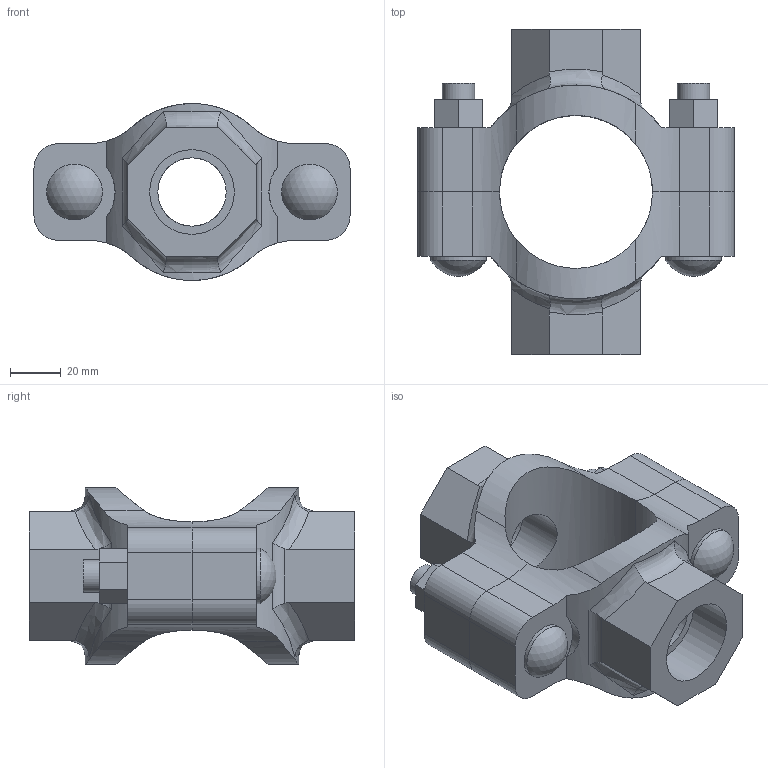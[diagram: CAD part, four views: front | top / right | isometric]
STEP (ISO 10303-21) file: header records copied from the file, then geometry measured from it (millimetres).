
FILE_DESCRIPTION(/* description */ ('VIC MECH-T BRANCH OUTLET CROSS STYLE 920N (THD)','CAx-IF Rec.Pracs.---Representation and Presentation of Product Manufacturing Information (PMI)---4.0---2014-10-13'),/* implementation_level */ '2;1');
FILE_NAME(/* name */ 'C:\Users\Vjadhav\AppData\Roaming\Autodesk\ApplicationPlugins\Back Up\Victaulic_IPS_Mechanical-Cross Outlet_Style 920N (FPT)\Victaulic_IPS_Mechanical-Cross Outlet_02.0x01.0x01.0 (50x25x25).stp',/* time_stamp */ '2020-08-06T18:56:05+05:00',/* author */ ('Vjadhav'),/* organization */ ('Victaulic'),/* preprocessor_version */ 'ST-DEVELOPER v17.2',/* originating_system */ 'Autodesk Inventor 2019',/* authorisation */ '');
FILE_SCHEMA (('AP242_MANAGED_MODEL_BASED_3D_ENGINEERING_MIM_LF { 1 0 10303 442 1 1 4 }'));
Length unit declared in the file: inch
Products named in the file (3): 920NT-02.0x01.0x01.0; 920NT-02.0x01.0; 920NT-02.0x01.0_1
Assembly tree (2 placements, depth 2):
  920NT-02.0x01.0x01.0
    920NT-02.0x01.0
    920NT-02.0x01.0_1
Bounding box: 124.71 x 128.52 x 69.83 mm (x, y, z)
Volume: 281319.6 mm3; surface area: 67147 mm2
Topology: 2 solids, 2 shells, 132 faces, 350 edges, 236 vertices
Faces by surface type: plane 68, cylinder 50, bspline 8, torus 4, sphere 2
Full cylindrical faces by diameter (mm): 12.7 x4, 21.982 x2, 26.987 x2, 33.401 x2
Entity records: 5062 total; most frequent: CARTESIAN_POINT 1549, ORIENTED_EDGE 700, DIRECTION 648, EDGE_CURVE 350, VERTEX_POINT 236, AXIS2_PLACEMENT_3D 231, LINE 186, VECTOR 186
